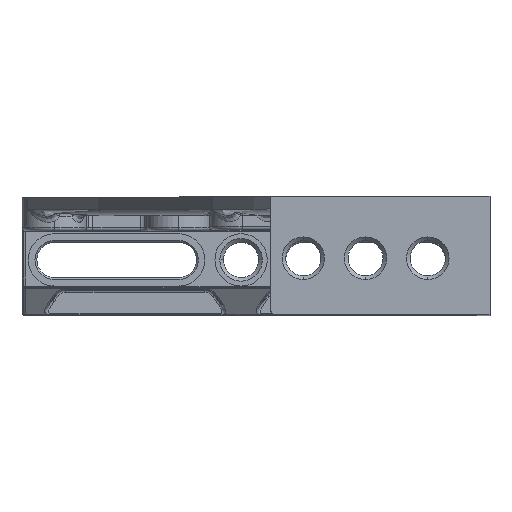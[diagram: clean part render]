
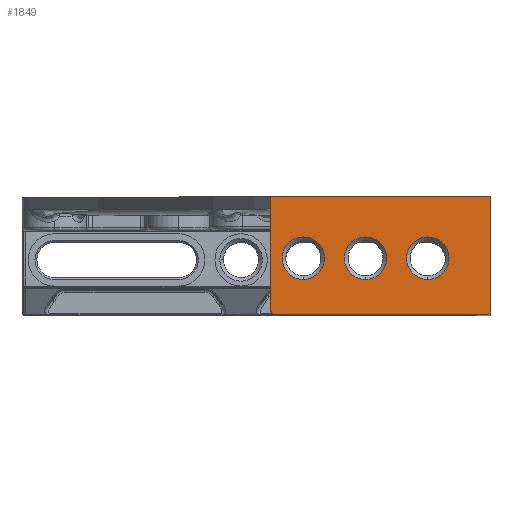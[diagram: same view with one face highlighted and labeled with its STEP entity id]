
A CAD part, top view. The second image highlights one B-rep face of the part: STEP entity #1849.
In plain terms, the highlighted planar face has unit normal (0, 0, 1).
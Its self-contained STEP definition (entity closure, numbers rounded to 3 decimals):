
#1849=ADVANCED_FACE('',(#4679,#4680,#4681,#4682),#4683,.T.);
#4679=FACE_OUTER_BOUND('',#10019,.T.);
#4680=FACE_BOUND('',#10020,.T.);
#4681=FACE_BOUND('',#10021,.T.);
#4682=FACE_BOUND('',#10022,.T.);
#4683=PLANE('',#10023);
#10019=EDGE_LOOP('',(#18825,#18826,#18827,#18828,#18829,#18830));
#10020=EDGE_LOOP('',(#18831,#18832));
#10021=EDGE_LOOP('',(#18833,#18834));
#10022=EDGE_LOOP('',(#18835,#18836));
#10023=AXIS2_PLACEMENT_3D('',#18837,#18838,#18839);
#18825=ORIENTED_EDGE('',*,*,#29347,.F.);
#18826=ORIENTED_EDGE('',*,*,#29293,.F.);
#18827=ORIENTED_EDGE('',*,*,#29348,.F.);
#18828=ORIENTED_EDGE('',*,*,#29349,.F.);
#18829=ORIENTED_EDGE('',*,*,#28976,.T.);
#18830=ORIENTED_EDGE('',*,*,#29350,.F.);
#18831=ORIENTED_EDGE('',*,*,#28602,.F.);
#18832=ORIENTED_EDGE('',*,*,#29351,.F.);
#18833=ORIENTED_EDGE('',*,*,#27973,.F.);
#18834=ORIENTED_EDGE('',*,*,#29352,.F.);
#18835=ORIENTED_EDGE('',*,*,#29353,.F.);
#18836=ORIENTED_EDGE('',*,*,#29354,.F.);
#18837=CARTESIAN_POINT('',(375.0,95.0,773.0));
#18838=DIRECTION('',(0.0,0.0,1.0));
#18839=DIRECTION('',(1.0,0.0,0.0));
#27973=EDGE_CURVE('',#32574,#32570,#32576,.T.);
#28602=EDGE_CURVE('',#33686,#33682,#33688,.T.);
#28976=EDGE_CURVE('',#34297,#34294,#34298,.T.);
#29293=EDGE_CURVE('',#34827,#34829,#34830,.T.);
#29347=EDGE_CURVE('',#34829,#34914,#34915,.T.);
#29348=EDGE_CURVE('',#34916,#34827,#34917,.T.);
#29349=EDGE_CURVE('',#34297,#34916,#34918,.T.);
#29350=EDGE_CURVE('',#34914,#34294,#34919,.T.);
#29351=EDGE_CURVE('',#33682,#33686,#34920,.T.);
#29352=EDGE_CURVE('',#32570,#32574,#34921,.T.);
#29353=EDGE_CURVE('',#34922,#34923,#34924,.T.);
#29354=EDGE_CURVE('',#34923,#34922,#34925,.T.);
#32570=VERTEX_POINT('',#39211);
#32574=VERTEX_POINT('',#39216);
#32576=CIRCLE('',#39219,17.075);
#33682=VERTEX_POINT('',#40863);
#33686=VERTEX_POINT('',#40868);
#33688=CIRCLE('',#40871,17.075);
#34294=VERTEX_POINT('',#41704);
#34297=VERTEX_POINT('',#41708);
#34298=LINE('',#41709,#41710);
#34827=VERTEX_POINT('',#42419);
#34829=VERTEX_POINT('',#42422);
#34830=LINE('',#42423,#42424);
#34914=VERTEX_POINT('',#42532);
#34915=CIRCLE('',#42533,3.0);
#34916=VERTEX_POINT('',#42534);
#34917=LINE('',#42535,#42536);
#34918=LINE('',#42537,#42538);
#34919=CIRCLE('',#42539,3.0);
#34920=CIRCLE('',#42540,17.075);
#34921=CIRCLE('',#42541,17.075);
#34922=VERTEX_POINT('',#42542);
#34923=VERTEX_POINT('',#42543);
#34924=CIRCLE('',#42544,17.075);
#34925=CIRCLE('',#42545,17.075);
#39211=CARTESIAN_POINT('',(275.0,27.925,773.0));
#39216=CARTESIAN_POINT('',(275.0,62.075,773.0));
#39219=AXIS2_PLACEMENT_3D('',#48361,#48362,#48363);
#40863=CARTESIAN_POINT('',(225.0,27.925,773.0));
#40868=CARTESIAN_POINT('',(225.0,62.075,773.0));
#40871=AXIS2_PLACEMENT_3D('',#49378,#49379,#49380);
#41704=CARTESIAN_POINT('',(199.0,3.0,773.0));
#41708=CARTESIAN_POINT('',(199.0,95.0,773.0));
#41709=CARTESIAN_POINT('',(199.0,47.5,773.0));
#41710=VECTOR('',#49960,1.0);
#42419=CARTESIAN_POINT('',(375.0,0.0,773.0));
#42422=CARTESIAN_POINT('',(202.0,0.0,773.0));
#42423=CARTESIAN_POINT('',(375.0,0.0,773.0));
#42424=VECTOR('',#50437,1.0);
#42532=CARTESIAN_POINT('',(199.879,0.879,773.0));
#42533=AXIS2_PLACEMENT_3D('',#50513,#50514,#50515);
#42534=CARTESIAN_POINT('',(375.0,95.0,773.0));
#42535=CARTESIAN_POINT('',(375.0,95.0,773.0));
#42536=VECTOR('',#50516,1.0);
#42537=CARTESIAN_POINT('',(348.0,95.0,773.0));
#42538=VECTOR('',#50517,1.0);
#42539=AXIS2_PLACEMENT_3D('',#50518,#50519,#50520);
#42540=AXIS2_PLACEMENT_3D('',#50521,#50522,#50523);
#42541=AXIS2_PLACEMENT_3D('',#50524,#50525,#50526);
#42542=CARTESIAN_POINT('',(325.0,62.075,773.0));
#42543=CARTESIAN_POINT('',(325.0,27.925,773.0));
#42544=AXIS2_PLACEMENT_3D('',#50527,#50528,#50529);
#42545=AXIS2_PLACEMENT_3D('',#50530,#50531,#50532);
#48361=CARTESIAN_POINT('',(275.0,45.0,773.0));
#48362=DIRECTION('',(0.0,0.0,1.0));
#48363=DIRECTION('',(0.0,-1.0,0.0));
#49378=CARTESIAN_POINT('',(225.0,45.0,773.0));
#49379=DIRECTION('',(0.0,0.0,1.0));
#49380=DIRECTION('',(0.0,-1.0,0.0));
#49960=DIRECTION('',(0.0,-1.0,0.0));
#50437=DIRECTION('',(-1.0,0.0,0.0));
#50513=CARTESIAN_POINT('',(202.0,3.0,773.0));
#50514=DIRECTION('',(-0.0,0.0,-1.0));
#50515=DIRECTION('',(-0.707,-0.707,0.0));
#50516=DIRECTION('',(0.0,-1.0,0.0));
#50517=DIRECTION('',(1.0,0.0,0.0));
#50518=CARTESIAN_POINT('',(202.0,3.0,773.0));
#50519=DIRECTION('',(-0.0,0.0,-1.0));
#50520=DIRECTION('',(-0.707,-0.707,0.0));
#50521=CARTESIAN_POINT('',(225.0,45.0,773.0));
#50522=DIRECTION('',(0.0,0.0,1.0));
#50523=DIRECTION('',(0.0,-1.0,0.0));
#50524=CARTESIAN_POINT('',(275.0,45.0,773.0));
#50525=DIRECTION('',(0.0,0.0,1.0));
#50526=DIRECTION('',(0.0,-1.0,0.0));
#50527=CARTESIAN_POINT('',(325.0,45.0,773.0));
#50528=DIRECTION('',(0.0,0.0,1.0));
#50529=DIRECTION('',(0.0,-1.0,0.0));
#50530=CARTESIAN_POINT('',(325.0,45.0,773.0));
#50531=DIRECTION('',(0.0,0.0,1.0));
#50532=DIRECTION('',(0.0,-1.0,0.0));
